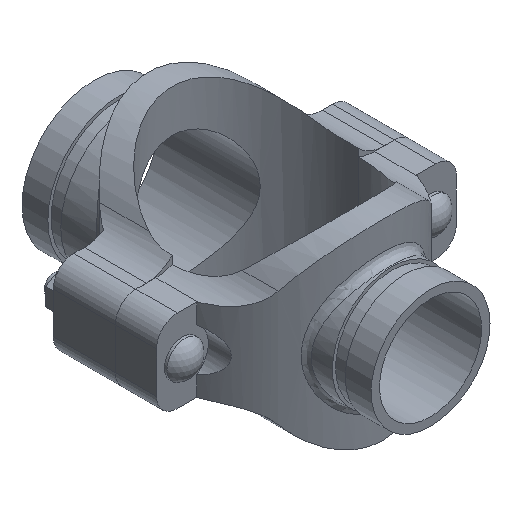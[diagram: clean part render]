
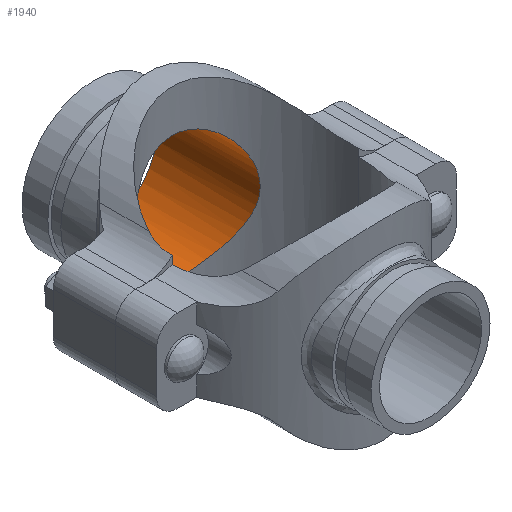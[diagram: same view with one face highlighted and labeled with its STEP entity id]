
A CAD part, isometric view. The second image highlights one B-rep face of the part: STEP entity #1940.
In plain terms, the highlighted cylindrical face has radius 38.894 mm (diameter 77.787 mm), a full revolution.
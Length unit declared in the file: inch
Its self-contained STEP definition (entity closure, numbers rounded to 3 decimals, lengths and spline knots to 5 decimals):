
#33=B_SPLINE_CURVE_WITH_KNOTS('',3,(#3306,#3307,#3308,#3309,#3310,#3311,
#3312,#3313,#3314,#3315,#3316,#3317,#3318,#3319,#3320,#3321,#3322,#3323,
#3324,#3325,#3326,#3327,#3328,#3329,#3330,#3331,#3332,#3333,#3334,#3335,
#3336,#3337,#3338,#3339,#3340,#3341,#3342,#3343,#3344,#3345,#3346,#3347,
#3348,#3349,#3350,#3351,#3352,#3353,#3354,#3355,#3356,#3357,#3358,#3359,
#3360,#3361,#3362,#3363,#3364,#3365,#3366,#3367,#3368,#3369,#3370,#3371),
 .UNSPECIFIED.,.T.,.F.,(4,2,2,2,2,2,2,2,2,2,2,2,2,2,2,2,2,2,2,2,2,2,2,2,
2,2,2,2,2,2,2,2,4),(0.,0.76949,1.53899,2.30848,
3.07797,3.83802,4.59808,5.35813,6.11819,
6.87824,7.63829,8.39835,9.1584,9.9279,
10.69739,11.46688,12.23637,13.00587,13.77536,
14.54485,15.31434,16.0744,16.83445,17.59451,
18.35456,19.11461,19.87467,20.63472,21.39478,
22.16427,22.93376,23.70325,24.47275),
 .UNSPECIFIED.);
#73=CYLINDRICAL_SURFACE('',#2138,1.53125);
#172=FACE_OUTER_BOUND('',#285,.T.);
#285=EDGE_LOOP('',(#1372,#1373,#1374,#1375));
#430=LINE('',#3305,#578);
#578=VECTOR('',#2470,1.53125);
#695=CIRCLE('',#2139,1.53125);
#824=VERTEX_POINT('',#3302);
#825=VERTEX_POINT('',#3304);
#1034=EDGE_CURVE('',#824,#824,#695,.T.);
#1035=EDGE_CURVE('',#824,#825,#430,.T.);
#1036=EDGE_CURVE('',#825,#825,#33,.T.);
#1372=ORIENTED_EDGE('',*,*,#1034,.F.);
#1373=ORIENTED_EDGE('',*,*,#1035,.T.);
#1374=ORIENTED_EDGE('',*,*,#1036,.F.);
#1375=ORIENTED_EDGE('',*,*,#1035,.F.);
#1940=ADVANCED_FACE('',(#172),#73,.F.);
#2138=AXIS2_PLACEMENT_3D('',#3301,#2466,#2467);
#2139=AXIS2_PLACEMENT_3D('',#3303,#2468,#2469);
#2466=DIRECTION('center_axis',(0.,-1.,0.));
#2467=DIRECTION('ref_axis',(-1.,0.,0.));
#2468=DIRECTION('center_axis',(0.,-1.,0.));
#2469=DIRECTION('ref_axis',(-1.,0.,0.));
#2470=DIRECTION('',(0.,-1.,0.));
#3301=CARTESIAN_POINT('Origin',(0.,4.13,0.));
#3302=CARTESIAN_POINT('',(1.53125,4.13,0.));
#3303=CARTESIAN_POINT('Origin',(0.,4.13,0.));
#3304=CARTESIAN_POINT('',(1.53125,1.64857,0.));
#3305=CARTESIAN_POINT('',(1.53125,4.13,0.));
#3306=CARTESIAN_POINT('Ctrl Pts',(1.53125,1.64857,0.));
#3307=CARTESIAN_POINT('Ctrl Pts',(1.53125,1.64857,-0.10098));
#3308=CARTESIAN_POINT('Ctrl Pts',(1.52113,1.65813,-0.20339));
#3309=CARTESIAN_POINT('Ctrl Pts',(1.48054,1.69448,-0.40399));
#3310=CARTESIAN_POINT('Ctrl Pts',(1.45009,1.72113,-0.50223));
#3311=CARTESIAN_POINT('Ctrl Pts',(1.37128,1.78456,-0.6889));
#3312=CARTESIAN_POINT('Ctrl Pts',(1.32285,1.82128,-0.77754));
#3313=CARTESIAN_POINT('Ctrl Pts',(1.21189,1.89693,-0.94118));
#3314=CARTESIAN_POINT('Ctrl Pts',(1.14932,1.9358,-1.01619));
#3315=CARTESIAN_POINT('Ctrl Pts',(1.01701,2.00844,-1.14851));
#3316=CARTESIAN_POINT('Ctrl Pts',(0.94244,2.04503,-1.21092));
#3317=CARTESIAN_POINT('Ctrl Pts',(0.77875,2.11279,-1.32214));
#3318=CARTESIAN_POINT('Ctrl Pts',(0.68961,2.14393,-1.37097));
#3319=CARTESIAN_POINT('Ctrl Pts',(0.50176,2.1955,-1.4503));
#3320=CARTESIAN_POINT('Ctrl Pts',(0.40284,2.21597,-1.48086));
#3321=CARTESIAN_POINT('Ctrl Pts',(0.20184,2.24322,-1.52135));
#3322=CARTESIAN_POINT('Ctrl Pts',(0.09974,2.25,-1.53125));
#3323=CARTESIAN_POINT('Ctrl Pts',(-0.09974,2.25,-1.53125));
#3324=CARTESIAN_POINT('Ctrl Pts',(-0.20184,2.24322,-1.52135));
#3325=CARTESIAN_POINT('Ctrl Pts',(-0.40284,2.21597,-1.48086));
#3326=CARTESIAN_POINT('Ctrl Pts',(-0.50176,2.1955,-1.4503));
#3327=CARTESIAN_POINT('Ctrl Pts',(-0.68961,2.14393,-1.37097));
#3328=CARTESIAN_POINT('Ctrl Pts',(-0.77875,2.11279,-1.32214));
#3329=CARTESIAN_POINT('Ctrl Pts',(-0.94244,2.04503,-1.21092));
#3330=CARTESIAN_POINT('Ctrl Pts',(-1.01701,2.00844,-1.14851));
#3331=CARTESIAN_POINT('Ctrl Pts',(-1.14932,1.9358,-1.01619));
#3332=CARTESIAN_POINT('Ctrl Pts',(-1.21189,1.89693,-0.94118));
#3333=CARTESIAN_POINT('Ctrl Pts',(-1.32285,1.82128,-0.77754));
#3334=CARTESIAN_POINT('Ctrl Pts',(-1.37128,1.78456,-0.6889));
#3335=CARTESIAN_POINT('Ctrl Pts',(-1.45009,1.72113,-0.50223));
#3336=CARTESIAN_POINT('Ctrl Pts',(-1.48054,1.69448,-0.40399));
#3337=CARTESIAN_POINT('Ctrl Pts',(-1.52113,1.65813,-0.20339));
#3338=CARTESIAN_POINT('Ctrl Pts',(-1.53125,1.64857,-0.10098));
#3339=CARTESIAN_POINT('Ctrl Pts',(-1.53125,1.64857,0.10098));
#3340=CARTESIAN_POINT('Ctrl Pts',(-1.52113,1.65813,0.20339));
#3341=CARTESIAN_POINT('Ctrl Pts',(-1.48054,1.69448,0.40399));
#3342=CARTESIAN_POINT('Ctrl Pts',(-1.45009,1.72113,0.50223));
#3343=CARTESIAN_POINT('Ctrl Pts',(-1.37128,1.78456,0.6889));
#3344=CARTESIAN_POINT('Ctrl Pts',(-1.32285,1.82128,0.77754));
#3345=CARTESIAN_POINT('Ctrl Pts',(-1.21189,1.89693,0.94118));
#3346=CARTESIAN_POINT('Ctrl Pts',(-1.14932,1.9358,1.01619));
#3347=CARTESIAN_POINT('Ctrl Pts',(-1.01701,2.00844,1.14851));
#3348=CARTESIAN_POINT('Ctrl Pts',(-0.94244,2.04503,1.21092));
#3349=CARTESIAN_POINT('Ctrl Pts',(-0.77875,2.11279,1.32214));
#3350=CARTESIAN_POINT('Ctrl Pts',(-0.68961,2.14393,1.37097));
#3351=CARTESIAN_POINT('Ctrl Pts',(-0.50176,2.1955,1.4503));
#3352=CARTESIAN_POINT('Ctrl Pts',(-0.40284,2.21597,1.48086));
#3353=CARTESIAN_POINT('Ctrl Pts',(-0.20184,2.24322,1.52135));
#3354=CARTESIAN_POINT('Ctrl Pts',(-0.09974,2.25,1.53125));
#3355=CARTESIAN_POINT('Ctrl Pts',(0.09974,2.25,1.53125));
#3356=CARTESIAN_POINT('Ctrl Pts',(0.20184,2.24322,1.52135));
#3357=CARTESIAN_POINT('Ctrl Pts',(0.40284,2.21597,1.48086));
#3358=CARTESIAN_POINT('Ctrl Pts',(0.50176,2.1955,1.4503));
#3359=CARTESIAN_POINT('Ctrl Pts',(0.68961,2.14393,1.37097));
#3360=CARTESIAN_POINT('Ctrl Pts',(0.77875,2.11279,1.32214));
#3361=CARTESIAN_POINT('Ctrl Pts',(0.94244,2.04503,1.21092));
#3362=CARTESIAN_POINT('Ctrl Pts',(1.01701,2.00844,1.14851));
#3363=CARTESIAN_POINT('Ctrl Pts',(1.14932,1.9358,1.01619));
#3364=CARTESIAN_POINT('Ctrl Pts',(1.21189,1.89693,0.94118));
#3365=CARTESIAN_POINT('Ctrl Pts',(1.32285,1.82128,0.77754));
#3366=CARTESIAN_POINT('Ctrl Pts',(1.37128,1.78456,0.6889));
#3367=CARTESIAN_POINT('Ctrl Pts',(1.45009,1.72113,0.50223));
#3368=CARTESIAN_POINT('Ctrl Pts',(1.48054,1.69448,0.40399));
#3369=CARTESIAN_POINT('Ctrl Pts',(1.52113,1.65813,0.20339));
#3370=CARTESIAN_POINT('Ctrl Pts',(1.53125,1.64857,0.10098));
#3371=CARTESIAN_POINT('Ctrl Pts',(1.53125,1.64857,0.));
